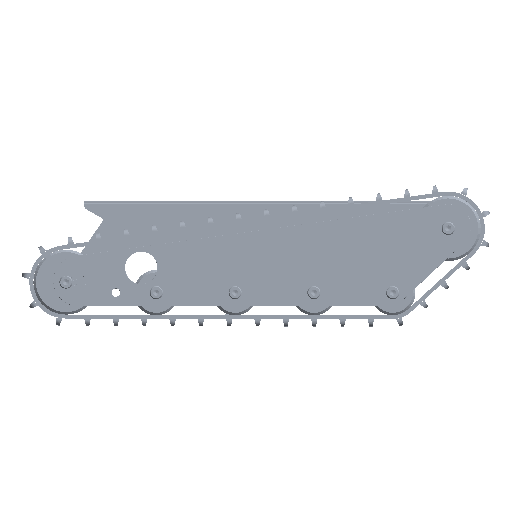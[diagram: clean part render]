
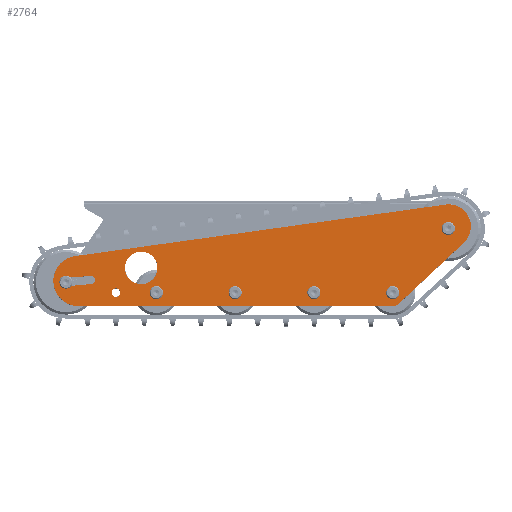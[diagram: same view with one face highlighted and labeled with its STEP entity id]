
A CAD part, front view. The second image highlights one B-rep face of the part: STEP entity #2764.
In plain terms, the highlighted planar face has unit normal (0, -1, 0) as drawn and (1, 0, 0) by its records, which use the part's own axes.
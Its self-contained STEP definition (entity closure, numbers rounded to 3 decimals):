
#1807=FACE_BOUND('',#4658,.T.);
#1808=FACE_BOUND('',#4659,.T.);
#1809=FACE_BOUND('',#4660,.T.);
#1810=FACE_BOUND('',#4661,.T.);
#1811=FACE_BOUND('',#4662,.T.);
#1812=FACE_BOUND('',#4663,.T.);
#1813=FACE_BOUND('',#4664,.T.);
#1814=FACE_BOUND('',#4665,.T.);
#1815=FACE_BOUND('',#4666,.T.);
#2478=CIRCLE('',#14029,4.2);
#2479=CIRCLE('',#14030,4.2);
#2480=CIRCLE('',#14031,4.2);
#2481=CIRCLE('',#14032,4.2);
#2482=CIRCLE('',#14033,16.1);
#2483=CIRCLE('',#14034,4.2);
#2484=CIRCLE('',#14035,4.2);
#2485=CIRCLE('',#14036,4.1);
#2486=CIRCLE('',#14037,4.1);
#2487=CIRCLE('',#14038,24.9);
#2488=CIRCLE('',#14039,7.9);
#2489=CIRCLE('',#14040,21.9);
#2764=ADVANCED_FACE('',(#1807,#1808,#1809,#1810,#1811,#1812,#1813,#1814,
#1815),#3398,.F.);
#3398=PLANE('',#14041);
#4658=EDGE_LOOP('',(#6039));
#4659=EDGE_LOOP('',(#6040));
#4660=EDGE_LOOP('',(#6041));
#4661=EDGE_LOOP('',(#6042));
#4662=EDGE_LOOP('',(#6043));
#4663=EDGE_LOOP('',(#6044));
#4664=EDGE_LOOP('',(#6045));
#4665=EDGE_LOOP('',(#6046,#6047,#6048,#6049));
#4666=EDGE_LOOP('',(#6050,#6051,#6052,#6053,#6054,#6055));
#6039=ORIENTED_EDGE('',*,*,#10259,.T.);
#6040=ORIENTED_EDGE('',*,*,#10260,.T.);
#6041=ORIENTED_EDGE('',*,*,#10261,.T.);
#6042=ORIENTED_EDGE('',*,*,#10262,.T.);
#6043=ORIENTED_EDGE('',*,*,#10263,.T.);
#6044=ORIENTED_EDGE('',*,*,#10264,.T.);
#6045=ORIENTED_EDGE('',*,*,#10265,.T.);
#6046=ORIENTED_EDGE('',*,*,#10266,.T.);
#6047=ORIENTED_EDGE('',*,*,#10267,.T.);
#6048=ORIENTED_EDGE('',*,*,#10268,.T.);
#6049=ORIENTED_EDGE('',*,*,#10269,.T.);
#6050=ORIENTED_EDGE('',*,*,#10270,.T.);
#6051=ORIENTED_EDGE('',*,*,#10271,.T.);
#6052=ORIENTED_EDGE('',*,*,#10272,.T.);
#6053=ORIENTED_EDGE('',*,*,#10273,.T.);
#6054=ORIENTED_EDGE('',*,*,#10274,.T.);
#6055=ORIENTED_EDGE('',*,*,#10275,.T.);
#8995=VERTEX_POINT('',#19957);
#8996=VERTEX_POINT('',#19959);
#8997=VERTEX_POINT('',#19961);
#8998=VERTEX_POINT('',#19963);
#8999=VERTEX_POINT('',#19965);
#9000=VERTEX_POINT('',#19967);
#9001=VERTEX_POINT('',#19969);
#9002=VERTEX_POINT('',#19971);
#9003=VERTEX_POINT('',#19972);
#9004=VERTEX_POINT('',#19974);
#9005=VERTEX_POINT('',#19976);
#9006=VERTEX_POINT('',#19979);
#9007=VERTEX_POINT('',#19980);
#9008=VERTEX_POINT('',#19982);
#9009=VERTEX_POINT('',#19984);
#9010=VERTEX_POINT('',#19986);
#9011=VERTEX_POINT('',#19988);
#10259=EDGE_CURVE('',#8995,#8995,#2478,.T.);
#10260=EDGE_CURVE('',#8996,#8996,#2479,.T.);
#10261=EDGE_CURVE('',#8997,#8997,#2480,.T.);
#10262=EDGE_CURVE('',#8998,#8998,#2481,.T.);
#10263=EDGE_CURVE('',#8999,#8999,#2482,.T.);
#10264=EDGE_CURVE('',#9000,#9000,#2483,.T.);
#10265=EDGE_CURVE('',#9001,#9001,#2484,.T.);
#10266=EDGE_CURVE('',#9002,#9003,#11743,.T.);
#10267=EDGE_CURVE('',#9003,#9004,#2485,.T.);
#10268=EDGE_CURVE('',#9004,#9005,#11744,.T.);
#10269=EDGE_CURVE('',#9005,#9002,#2486,.T.);
#10270=EDGE_CURVE('',#9006,#9007,#11745,.T.);
#10271=EDGE_CURVE('',#9007,#9008,#2487,.T.);
#10272=EDGE_CURVE('',#9008,#9009,#11746,.T.);
#10273=EDGE_CURVE('',#9009,#9010,#2488,.T.);
#10274=EDGE_CURVE('',#9010,#9011,#11747,.T.);
#10275=EDGE_CURVE('',#9011,#9006,#2489,.T.);
#11743=LINE('',#19970,#12793);
#11744=LINE('',#19975,#12794);
#11745=LINE('',#19978,#12795);
#11746=LINE('',#19983,#12796);
#11747=LINE('',#19987,#12797);
#12793=VECTOR('',#16037,1.);
#12794=VECTOR('',#16040,1.);
#12795=VECTOR('',#16043,1.);
#12796=VECTOR('',#16046,1.);
#12797=VECTOR('',#16049,1.);
#14029=AXIS2_PLACEMENT_3D('',#19956,#16023,#16024);
#14030=AXIS2_PLACEMENT_3D('',#19958,#16025,#16026);
#14031=AXIS2_PLACEMENT_3D('',#19960,#16027,#16028);
#14032=AXIS2_PLACEMENT_3D('',#19962,#16029,#16030);
#14033=AXIS2_PLACEMENT_3D('',#19964,#16031,#16032);
#14034=AXIS2_PLACEMENT_3D('',#19966,#16033,#16034);
#14035=AXIS2_PLACEMENT_3D('',#19968,#16035,#16036);
#14036=AXIS2_PLACEMENT_3D('',#19973,#16038,#16039);
#14037=AXIS2_PLACEMENT_3D('',#19977,#16041,#16042);
#14038=AXIS2_PLACEMENT_3D('',#19981,#16044,#16045);
#14039=AXIS2_PLACEMENT_3D('',#19985,#16047,#16048);
#14040=AXIS2_PLACEMENT_3D('',#19989,#16050,#16051);
#14041=AXIS2_PLACEMENT_3D('',#19990,#16052,#16053);
#16023=DIRECTION('',(-1.,0.,0.));
#16024=DIRECTION('',(0.,0.,1.));
#16025=DIRECTION('',(-1.,0.,0.));
#16026=DIRECTION('',(0.,0.,1.));
#16027=DIRECTION('',(-1.,0.,0.));
#16028=DIRECTION('',(0.,0.,1.));
#16029=DIRECTION('',(-1.,0.,0.));
#16030=DIRECTION('',(0.,0.,1.));
#16031=DIRECTION('',(-1.,0.,0.));
#16032=DIRECTION('',(0.,0.,1.));
#16033=DIRECTION('',(-1.,0.,0.));
#16034=DIRECTION('',(0.,0.,1.));
#16035=DIRECTION('',(-1.,0.,0.));
#16036=DIRECTION('',(0.,0.,1.));
#16037=DIRECTION('',(0.,-0.996,-0.087));
#16038=DIRECTION('',(-1.,0.,0.));
#16039=DIRECTION('',(0.,0.,1.));
#16040=DIRECTION('',(0.,0.996,0.087));
#16041=DIRECTION('',(-1.,0.,0.));
#16042=DIRECTION('',(0.,0.,1.));
#16043=DIRECTION('',(0.,-0.99,-0.138));
#16044=DIRECTION('',(1.,0.,0.));
#16045=DIRECTION('',(0.,0.,1.));
#16046=DIRECTION('',(0.,1.,0.));
#16047=DIRECTION('',(1.,0.,0.));
#16048=DIRECTION('',(0.,0.,1.));
#16049=DIRECTION('',(0.,0.729,0.684));
#16050=DIRECTION('',(1.,0.,0.));
#16051=DIRECTION('',(0.,0.,1.));
#16052=DIRECTION('',(-1.,0.,0.));
#16053=DIRECTION('',(0.,0.,1.));
#19956=CARTESIAN_POINT('',(0.,221.,77.));
#19957=CARTESIAN_POINT('',(0.,221.,81.2));
#19958=CARTESIAN_POINT('',(0.,166.,13.5));
#19959=CARTESIAN_POINT('',(0.,166.,17.7));
#19960=CARTESIAN_POINT('',(0.,88.,13.5));
#19961=CARTESIAN_POINT('',(0.,88.,17.7));
#19962=CARTESIAN_POINT('',(0.,10.,13.5));
#19963=CARTESIAN_POINT('',(0.,10.,17.7));
#19964=CARTESIAN_POINT('',(0.,-82.932,38.));
#19965=CARTESIAN_POINT('',(0.,-82.932,54.1));
#19966=CARTESIAN_POINT('',(0.,-68.,13.5));
#19967=CARTESIAN_POINT('',(0.,-68.,17.7));
#19968=CARTESIAN_POINT('',(0.,-108.,13.5));
#19969=CARTESIAN_POINT('',(0.,-108.,17.7));
#19970=CARTESIAN_POINT('',(0.,-157.095,19.826));
#19971=CARTESIAN_POINT('',(0.,-132.19,22.005));
#19972=CARTESIAN_POINT('',(0.,-157.095,19.826));
#19973=CARTESIAN_POINT('',(0.,-157.452,23.911));
#19974=CARTESIAN_POINT('',(0.,-157.81,27.995));
#19975=CARTESIAN_POINT('',(0.,-132.905,30.174));
#19976=CARTESIAN_POINT('',(0.,-132.905,30.174));
#19977=CARTESIAN_POINT('',(0.,-132.548,26.089));
#19978=CARTESIAN_POINT('',(0.,-148.43,49.663));
#19979=CARTESIAN_POINT('',(0.,218.483,100.691));
#19980=CARTESIAN_POINT('',(0.,-148.43,49.663));
#19981=CARTESIAN_POINT('',(0.,-145.,25.));
#19982=CARTESIAN_POINT('',(0.,-145.,0.1));
#19983=CARTESIAN_POINT('',(0.,166.305,0.1));
#19984=CARTESIAN_POINT('',(0.,166.305,0.1));
#19985=CARTESIAN_POINT('',(0.,166.305,8.));
#19986=CARTESIAN_POINT('',(0.,171.711,2.239));
#19987=CARTESIAN_POINT('',(0.,236.487,63.031));
#19988=CARTESIAN_POINT('',(0.,236.487,63.031));
#19989=CARTESIAN_POINT('',(0.,221.5,79.));
#19990=CARTESIAN_POINT('',(0.,221.5,79.));
